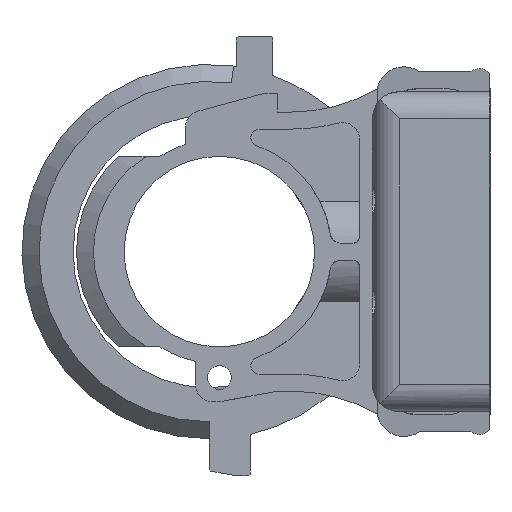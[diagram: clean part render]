
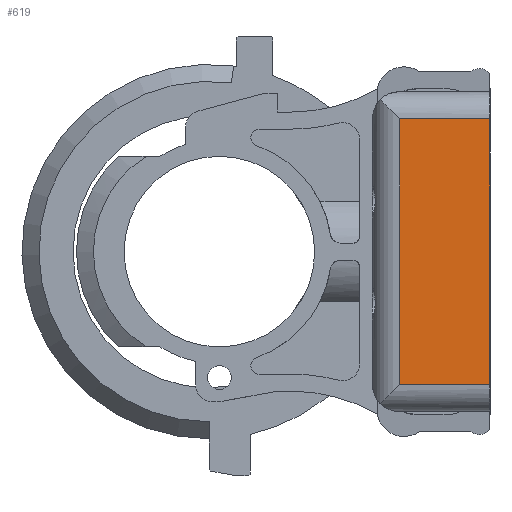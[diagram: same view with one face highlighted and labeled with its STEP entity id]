
A CAD part, left-side view. The second image highlights one B-rep face of the part: STEP entity #619.
In plain terms, the highlighted planar face has unit normal (-1, 0, 0).
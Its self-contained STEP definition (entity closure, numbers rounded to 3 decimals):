
#619 = ADVANCED_FACE( '', ( #1240 ), #1241, .F. );
#1240 = FACE_OUTER_BOUND( '', #1877, .T. );
#1241 = PLANE( '', #1878 );
#1877 = EDGE_LOOP( '', ( #3462, #3463, #3464, #3465 ) );
#1878 = AXIS2_PLACEMENT_3D( '', #3466, #3467, #3468 );
#3462 = ORIENTED_EDGE( '', *, *, #3840, .F. );
#3463 = ORIENTED_EDGE( '', *, *, #4334, .F. );
#3464 = ORIENTED_EDGE( '', *, *, #4149, .T. );
#3465 = ORIENTED_EDGE( '', *, *, #3962, .T. );
#3466 = CARTESIAN_POINT( '', ( 0., 26.55, 39. ) );
#3467 = DIRECTION( '', ( 1., 0., 0. ) );
#3468 = DIRECTION( '', ( 0., 0., -1. ) );
#3840 = EDGE_CURVE( '', #4576, #4578, #4579, .T. );
#3962 = EDGE_CURVE( '', #4791, #4578, #4792, .T. );
#4149 = EDGE_CURVE( '', #5105, #4791, #5106, .T. );
#4334 = EDGE_CURVE( '', #5105, #4576, #5371, .T. );
#4576 = VERTEX_POINT( '', #5722 );
#4578 = VERTEX_POINT( '', #5724 );
#4579 = LINE( '', #5725, #5726 );
#4791 = VERTEX_POINT( '', #6019 );
#4792 = LINE( '', #6020, #6021 );
#5105 = VERTEX_POINT( '', #6702 );
#5106 = LINE( '', #6703, #6704 );
#5371 = LINE( '', #7121, #7122 );
#5722 = CARTESIAN_POINT( '', ( 0., 0., 39. ) );
#5724 = CARTESIAN_POINT( '', ( 0., 0., -39. ) );
#5725 = CARTESIAN_POINT( '', ( 0., 0., 47. ) );
#5726 = VECTOR( '', #7491, 1000. );
#6019 = CARTESIAN_POINT( '', ( 0., 26.55, -39. ) );
#6020 = CARTESIAN_POINT( '', ( 0., 34.55, -39. ) );
#6021 = VECTOR( '', #7656, 1000. );
#6702 = CARTESIAN_POINT( '', ( 0., 26.55, 39. ) );
#6703 = CARTESIAN_POINT( '', ( 0., 26.55, 47. ) );
#6704 = VECTOR( '', #7898, 1000. );
#7121 = CARTESIAN_POINT( '', ( 0., 34.55, 39. ) );
#7122 = VECTOR( '', #8124, 1000. );
#7491 = DIRECTION( '', ( 0., 0., -1. ) );
#7656 = DIRECTION( '', ( 0., -1., 0. ) );
#7898 = DIRECTION( '', ( 0., 0., -1. ) );
#8124 = DIRECTION( '', ( 0., -1., 0. ) );
